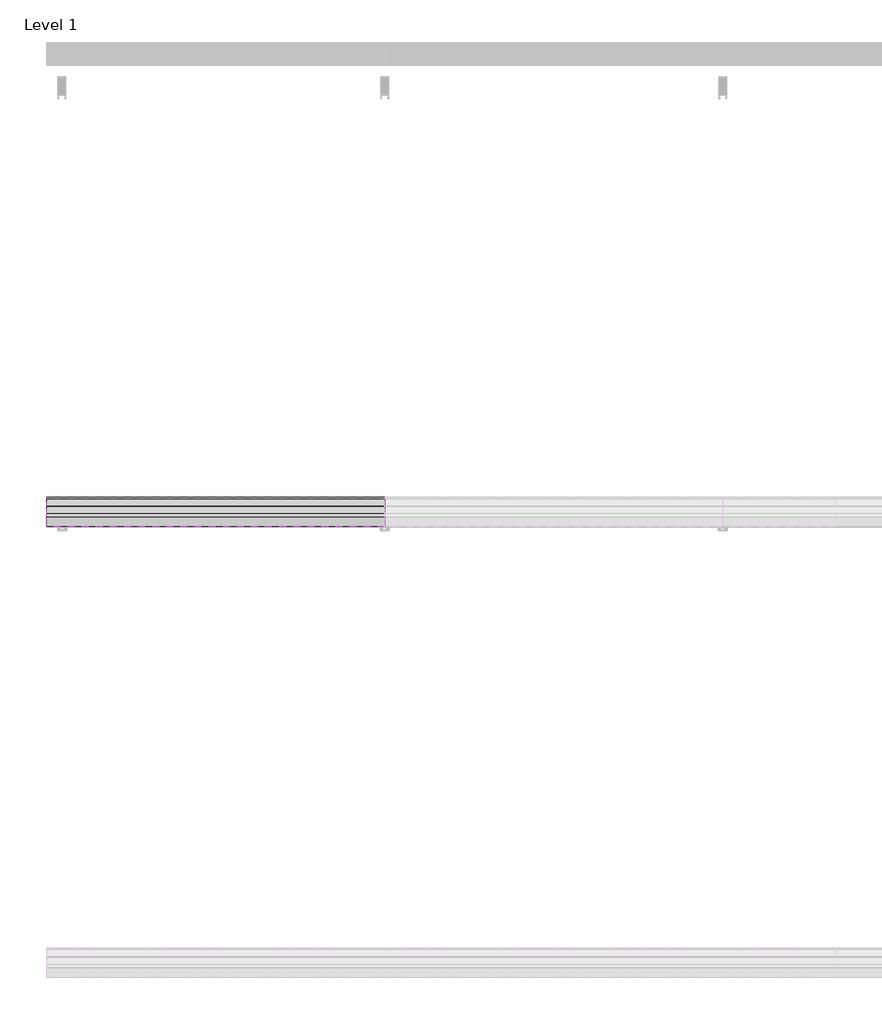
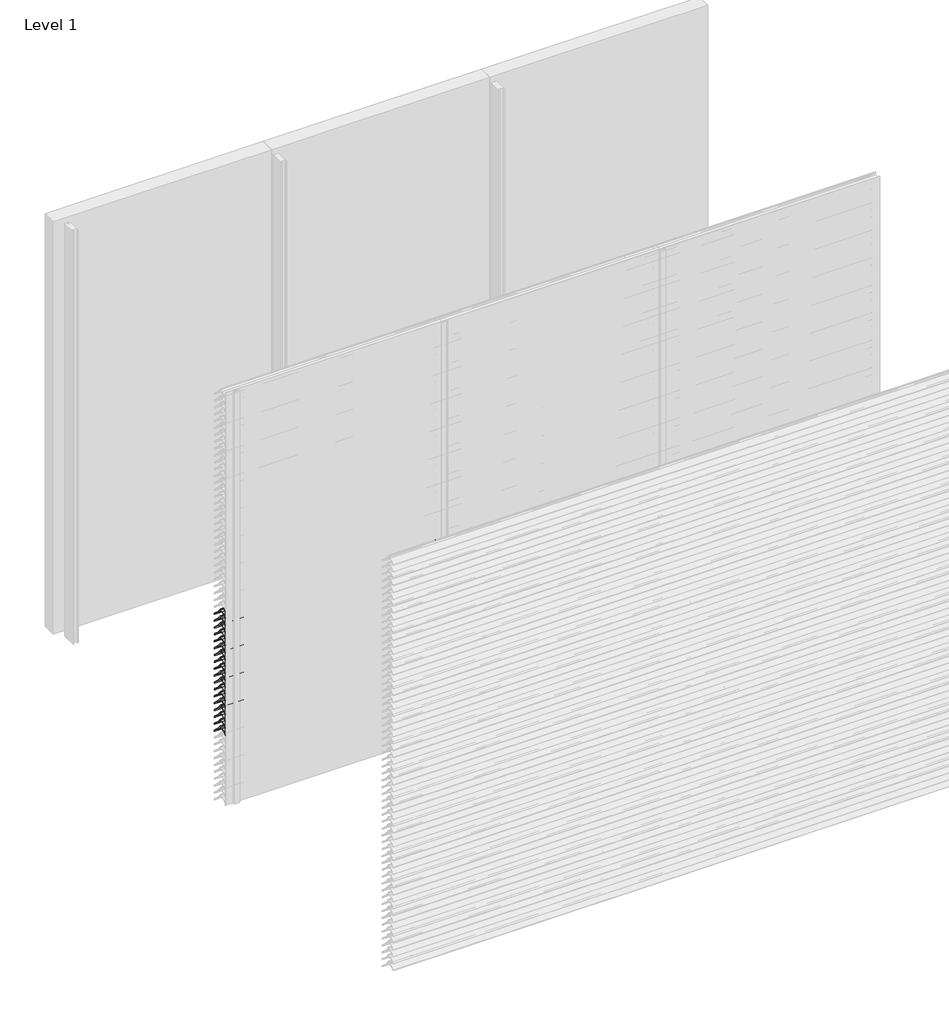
# One storey, part 94 of 173: 18 proxies.
"""IFC4 building model written with IfcOpenShell, lengths in millimetres."""

from ifc_helpers import new_model, si_unit, point, frame, frame_2d, origin, place, context, project, spatial, polyline, circle_curve, trimmed, segment, composite_curve, outline, extrude, element, save

model = new_model("IFC4")

# Units and contexts
model_context = context("Model", 3, world=origin())
ifc_project = project(units=[si_unit("LENGTHUNIT", "METRE", prefix="MILLI")], contexts=[model_context])

# Site, building, storey
site = spatial("IfcSite", under=ifc_project)
building = spatial("IfcBuilding", under=site)
storey = spatial("IfcBuildingStorey", under=building, Name="Level 1", Elevation=0.0)

# Proxies
placement = place(None, origin())
element("IfcBuildingElementProxy", 1, Name="Wall Sweeps", at=placement, inside=storey, context=model_context, shape_type="SweptSolid", body=[
    extrude(outline(composite_curve([segment(polyline([(-23998.0, 1359.1474905), (-23998.0, 1361.6227417)]), True, "CONTINUOUS"), segment(trimmed(circle_curve(frame_2d((-23951.2682172, 1316.2200208)), 65.1557103), [point((-23998.0, 1361.6227417))], [point((-23954.4014323, 1381.3003524))], False, "CARTESIAN"), True, "CONTINUOUS"), segment(polyline([(-23954.4014323, 1381.3003524), (-23934.8315836, 1381.3003524)]), True, "CONTINUOUS"), segment(trimmed(circle_curve(frame_2d((-23732.7329489, 1528.5533172)), 250.0545817), [point((-23934.8315836, 1381.3003524))], [point((-23941.4452143, 1390.8344583))], False, "CARTESIAN"), True, "CONTINUOUS"), segment(trimmed(circle_curve(frame_2d((-23953.2981792, 1385.1737835)), 13.1352966), [point((-23941.4452143, 1390.8344583))], [point((-23953.8171475, 1398.298824))], True, "CARTESIAN"), True, "CONTINUOUS"), segment(polyline([(-23953.8171475, 1398.298824), (-23953.8171475, 1400.0)]), True, "CONTINUOUS"), segment(trimmed(circle_curve(frame_2d((-23953.2981792, 1385.1737835)), 14.8352966), [point((-23953.8171475, 1400.0))], [point((-23939.9637661, 1391.6760487))], False, "CARTESIAN"), True, "CONTINUOUS"), segment(trimmed(circle_curve(frame_2d((-23732.7329489, 1528.5533172)), 248.3545817), [point((-23939.9637661, 1391.6760487))], [point((-23873.8787895, 1324.2059416))], True, "CARTESIAN"), True, "CONTINUOUS"), segment(trimmed(circle_curve(frame_2d((-23883.8147537, 1311.6649442)), 16.0), [point((-23873.8787895, 1324.2059416))], [point((-23867.8648347, 1310.4))], False, "CARTESIAN"), True, "CONTINUOUS"), segment(polyline([(-23867.8648347, 1310.4), (-23869.6712069, 1310.4)]), True, "CONTINUOUS"), segment(trimmed(circle_curve(frame_2d((-23883.8147537, 1311.6649442)), 14.2), [point((-23869.6712069, 1310.4))], [point((-23874.9518628, 1322.7594998))], True, "CARTESIAN"), True, "CONTINUOUS"), segment(trimmed(circle_curve(frame_2d((-23732.7329489, 1528.5533172)), 250.1545817), [point((-23874.9518628, 1322.7594998))], [point((-23933.7064024, 1379.6003524))], False, "CARTESIAN"), True, "CONTINUOUS"), segment(polyline([(-23933.7064024, 1379.6003524), (-23954.3602632, 1379.6003524)]), True, "CONTINUOUS"), segment(trimmed(circle_curve(frame_2d((-23951.2682172, 1316.2200208)), 63.4557103), [point((-23954.3602632, 1379.6003524))], [point((-23998.0, 1359.1474905))], True, "CARTESIAN"), True, "CONTINUOUS")], self_intersect=False)), frame((0.0, 0.0, 0.0), z_axis=(1.0, 0.0, 0.0), x_axis=(0.0, 1.0, 0.0)), (0.0, 0.0, 1.0), 1500.0),
])
element("IfcBuildingElementProxy", 2, Name="Wall Sweeps", at=placement, inside=storey, context=model_context, shape_type="SweptSolid", body=[
    extrude(outline(composite_curve([segment(polyline([(-23998.0, 1309.1474905), (-23998.0, 1311.6227417)]), True, "CONTINUOUS"), segment(trimmed(circle_curve(frame_2d((-23951.2682172, 1266.2200208)), 65.1557103), [point((-23998.0, 1311.6227417))], [point((-23954.4014323, 1331.3003524))], False, "CARTESIAN"), True, "CONTINUOUS"), segment(polyline([(-23954.4014323, 1331.3003524), (-23934.8315836, 1331.3003524)]), True, "CONTINUOUS"), segment(trimmed(circle_curve(frame_2d((-23732.7329489, 1478.5533172)), 250.0545817), [point((-23934.8315836, 1331.3003524))], [point((-23941.4452143, 1340.8344583))], False, "CARTESIAN"), True, "CONTINUOUS"), segment(trimmed(circle_curve(frame_2d((-23953.2981792, 1335.1737835)), 13.1352966), [point((-23941.4452143, 1340.8344583))], [point((-23953.8171475, 1348.298824))], True, "CARTESIAN"), True, "CONTINUOUS"), segment(polyline([(-23953.8171475, 1348.298824), (-23953.8171475, 1350.0)]), True, "CONTINUOUS"), segment(trimmed(circle_curve(frame_2d((-23953.2981792, 1335.1737835)), 14.8352966), [point((-23953.8171475, 1350.0))], [point((-23939.9637661, 1341.6760487))], False, "CARTESIAN"), True, "CONTINUOUS"), segment(trimmed(circle_curve(frame_2d((-23732.7329489, 1478.5533172)), 248.3545817), [point((-23939.9637661, 1341.6760487))], [point((-23873.8787895, 1274.2059416))], True, "CARTESIAN"), True, "CONTINUOUS"), segment(trimmed(circle_curve(frame_2d((-23883.8147537, 1261.6649442)), 16.0), [point((-23873.8787895, 1274.2059416))], [point((-23867.8648347, 1260.4))], False, "CARTESIAN"), True, "CONTINUOUS"), segment(polyline([(-23867.8648347, 1260.4), (-23869.6712069, 1260.4)]), True, "CONTINUOUS"), segment(trimmed(circle_curve(frame_2d((-23883.8147537, 1261.6649442)), 14.2), [point((-23869.6712069, 1260.4))], [point((-23874.9518628, 1272.7594998))], True, "CARTESIAN"), True, "CONTINUOUS"), segment(trimmed(circle_curve(frame_2d((-23732.7329489, 1478.5533172)), 250.1545817), [point((-23874.9518628, 1272.7594998))], [point((-23933.7064024, 1329.6003524))], False, "CARTESIAN"), True, "CONTINUOUS"), segment(polyline([(-23933.7064024, 1329.6003524), (-23954.3602632, 1329.6003524)]), True, "CONTINUOUS"), segment(trimmed(circle_curve(frame_2d((-23951.2682172, 1266.2200208)), 63.4557103), [point((-23954.3602632, 1329.6003524))], [point((-23998.0, 1309.1474905))], True, "CARTESIAN"), True, "CONTINUOUS")], self_intersect=False)), frame((0.0, 0.0, 0.0), z_axis=(1.0, 0.0, 0.0), x_axis=(0.0, 1.0, 0.0)), (0.0, 0.0, 1.0), 1500.0),
])
element("IfcBuildingElementProxy", 3, Name="Wall Sweeps", at=placement, inside=storey, context=model_context, shape_type="SweptSolid", body=[
    extrude(outline(composite_curve([segment(polyline([(-23998.0, 1259.1474905), (-23998.0, 1261.6227417)]), True, "CONTINUOUS"), segment(trimmed(circle_curve(frame_2d((-23951.2682172, 1216.2200208)), 65.1557103), [point((-23998.0, 1261.6227417))], [point((-23954.4014323, 1281.3003524))], False, "CARTESIAN"), True, "CONTINUOUS"), segment(polyline([(-23954.4014323, 1281.3003524), (-23934.8315836, 1281.3003524)]), True, "CONTINUOUS"), segment(trimmed(circle_curve(frame_2d((-23732.7329489, 1428.5533172)), 250.0545817), [point((-23934.8315836, 1281.3003524))], [point((-23941.4452143, 1290.8344583))], False, "CARTESIAN"), True, "CONTINUOUS"), segment(trimmed(circle_curve(frame_2d((-23953.2981792, 1285.1737835)), 13.1352966), [point((-23941.4452143, 1290.8344583))], [point((-23953.8171475, 1298.298824))], True, "CARTESIAN"), True, "CONTINUOUS"), segment(polyline([(-23953.8171475, 1298.298824), (-23953.8171475, 1300.0)]), True, "CONTINUOUS"), segment(trimmed(circle_curve(frame_2d((-23953.2981792, 1285.1737835)), 14.8352966), [point((-23953.8171475, 1300.0))], [point((-23939.9637661, 1291.6760487))], False, "CARTESIAN"), True, "CONTINUOUS"), segment(trimmed(circle_curve(frame_2d((-23732.7329489, 1428.5533172)), 248.3545817), [point((-23939.9637661, 1291.6760487))], [point((-23873.8787895, 1224.2059416))], True, "CARTESIAN"), True, "CONTINUOUS"), segment(trimmed(circle_curve(frame_2d((-23883.8147537, 1211.6649442)), 16.0), [point((-23873.8787895, 1224.2059416))], [point((-23867.8648347, 1210.4))], False, "CARTESIAN"), True, "CONTINUOUS"), segment(polyline([(-23867.8648347, 1210.4), (-23869.6712069, 1210.4)]), True, "CONTINUOUS"), segment(trimmed(circle_curve(frame_2d((-23883.8147537, 1211.6649442)), 14.2), [point((-23869.6712069, 1210.4))], [point((-23874.9518628, 1222.7594998))], True, "CARTESIAN"), True, "CONTINUOUS"), segment(trimmed(circle_curve(frame_2d((-23732.7329489, 1428.5533172)), 250.1545817), [point((-23874.9518628, 1222.7594998))], [point((-23933.7064024, 1279.6003524))], False, "CARTESIAN"), True, "CONTINUOUS"), segment(polyline([(-23933.7064024, 1279.6003524), (-23954.3602632, 1279.6003524)]), True, "CONTINUOUS"), segment(trimmed(circle_curve(frame_2d((-23951.2682172, 1216.2200208)), 63.4557103), [point((-23954.3602632, 1279.6003524))], [point((-23998.0, 1259.1474905))], True, "CARTESIAN"), True, "CONTINUOUS")], self_intersect=False)), frame((0.0, 0.0, 0.0), z_axis=(1.0, 0.0, 0.0), x_axis=(0.0, 1.0, 0.0)), (0.0, 0.0, 1.0), 1500.0),
])
element("IfcBuildingElementProxy", 4, Name="Wall Sweeps", at=placement, inside=storey, context=model_context, shape_type="SweptSolid", body=[
    extrude(outline(composite_curve([segment(polyline([(-23998.0, 1209.1474905), (-23998.0, 1211.6227417)]), True, "CONTINUOUS"), segment(trimmed(circle_curve(frame_2d((-23951.2682172, 1166.2200208)), 65.1557103), [point((-23998.0, 1211.6227417))], [point((-23954.4014323, 1231.3003524))], False, "CARTESIAN"), True, "CONTINUOUS"), segment(polyline([(-23954.4014323, 1231.3003524), (-23934.8315836, 1231.3003524)]), True, "CONTINUOUS"), segment(trimmed(circle_curve(frame_2d((-23732.7329489, 1378.5533172)), 250.0545817), [point((-23934.8315836, 1231.3003524))], [point((-23941.4452143, 1240.8344583))], False, "CARTESIAN"), True, "CONTINUOUS"), segment(trimmed(circle_curve(frame_2d((-23953.2981792, 1235.1737835)), 13.1352966), [point((-23941.4452143, 1240.8344583))], [point((-23953.8171475, 1248.298824))], True, "CARTESIAN"), True, "CONTINUOUS"), segment(polyline([(-23953.8171475, 1248.298824), (-23953.8171475, 1250.0)]), True, "CONTINUOUS"), segment(trimmed(circle_curve(frame_2d((-23953.2981792, 1235.1737835)), 14.8352966), [point((-23953.8171475, 1250.0))], [point((-23939.9637661, 1241.6760487))], False, "CARTESIAN"), True, "CONTINUOUS"), segment(trimmed(circle_curve(frame_2d((-23732.7329489, 1378.5533172)), 248.3545817), [point((-23939.9637661, 1241.6760487))], [point((-23873.8787895, 1174.2059416))], True, "CARTESIAN"), True, "CONTINUOUS"), segment(trimmed(circle_curve(frame_2d((-23883.8147537, 1161.6649442)), 16.0), [point((-23873.8787895, 1174.2059416))], [point((-23867.8648347, 1160.4))], False, "CARTESIAN"), True, "CONTINUOUS"), segment(polyline([(-23867.8648347, 1160.4), (-23869.6712069, 1160.4)]), True, "CONTINUOUS"), segment(trimmed(circle_curve(frame_2d((-23883.8147537, 1161.6649442)), 14.2), [point((-23869.6712069, 1160.4))], [point((-23874.9518628, 1172.7594998))], True, "CARTESIAN"), True, "CONTINUOUS"), segment(trimmed(circle_curve(frame_2d((-23732.7329489, 1378.5533172)), 250.1545817), [point((-23874.9518628, 1172.7594998))], [point((-23933.7064024, 1229.6003524))], False, "CARTESIAN"), True, "CONTINUOUS"), segment(polyline([(-23933.7064024, 1229.6003524), (-23954.3602632, 1229.6003524)]), True, "CONTINUOUS"), segment(trimmed(circle_curve(frame_2d((-23951.2682172, 1166.2200208)), 63.4557103), [point((-23954.3602632, 1229.6003524))], [point((-23998.0, 1209.1474905))], True, "CARTESIAN"), True, "CONTINUOUS")], self_intersect=False)), frame((0.0, 0.0, 0.0), z_axis=(1.0, 0.0, 0.0), x_axis=(0.0, 1.0, 0.0)), (0.0, 0.0, 1.0), 1500.0),
])
element("IfcBuildingElementProxy", 5, Name="Wall Sweeps", at=placement, inside=storey, context=model_context, shape_type="SweptSolid", body=[
    extrude(outline(composite_curve([segment(polyline([(-23998.0, 1159.1474905), (-23998.0, 1161.6227417)]), True, "CONTINUOUS"), segment(trimmed(circle_curve(frame_2d((-23951.2682172, 1116.2200208)), 65.1557103), [point((-23998.0, 1161.6227417))], [point((-23954.4014323, 1181.3003524))], False, "CARTESIAN"), True, "CONTINUOUS"), segment(polyline([(-23954.4014323, 1181.3003524), (-23934.8315836, 1181.3003524)]), True, "CONTINUOUS"), segment(trimmed(circle_curve(frame_2d((-23732.7329489, 1328.5533172)), 250.0545817), [point((-23934.8315836, 1181.3003524))], [point((-23941.4452143, 1190.8344583))], False, "CARTESIAN"), True, "CONTINUOUS"), segment(trimmed(circle_curve(frame_2d((-23953.2981792, 1185.1737835)), 13.1352966), [point((-23941.4452143, 1190.8344583))], [point((-23953.8171475, 1198.298824))], True, "CARTESIAN"), True, "CONTINUOUS"), segment(polyline([(-23953.8171475, 1198.298824), (-23953.8171475, 1200.0)]), True, "CONTINUOUS"), segment(trimmed(circle_curve(frame_2d((-23953.2981792, 1185.1737835)), 14.8352966), [point((-23953.8171475, 1200.0))], [point((-23939.9637661, 1191.6760487))], False, "CARTESIAN"), True, "CONTINUOUS"), segment(trimmed(circle_curve(frame_2d((-23732.7329489, 1328.5533172)), 248.3545817), [point((-23939.9637661, 1191.6760487))], [point((-23873.8787895, 1124.2059416))], True, "CARTESIAN"), True, "CONTINUOUS"), segment(trimmed(circle_curve(frame_2d((-23883.8147537, 1111.6649442)), 16.0), [point((-23873.8787895, 1124.2059416))], [point((-23867.8648347, 1110.4))], False, "CARTESIAN"), True, "CONTINUOUS"), segment(polyline([(-23867.8648347, 1110.4), (-23869.6712069, 1110.4)]), True, "CONTINUOUS"), segment(trimmed(circle_curve(frame_2d((-23883.8147537, 1111.6649442)), 14.2), [point((-23869.6712069, 1110.4))], [point((-23874.9518628, 1122.7594998))], True, "CARTESIAN"), True, "CONTINUOUS"), segment(trimmed(circle_curve(frame_2d((-23732.7329489, 1328.5533172)), 250.1545817), [point((-23874.9518628, 1122.7594998))], [point((-23933.7064024, 1179.6003524))], False, "CARTESIAN"), True, "CONTINUOUS"), segment(polyline([(-23933.7064024, 1179.6003524), (-23954.3602632, 1179.6003524)]), True, "CONTINUOUS"), segment(trimmed(circle_curve(frame_2d((-23951.2682172, 1116.2200208)), 63.4557103), [point((-23954.3602632, 1179.6003524))], [point((-23998.0, 1159.1474905))], True, "CARTESIAN"), True, "CONTINUOUS")], self_intersect=False)), frame((0.0, 0.0, 0.0), z_axis=(1.0, 0.0, 0.0), x_axis=(0.0, 1.0, 0.0)), (0.0, 0.0, 1.0), 1500.0),
])
element("IfcBuildingElementProxy", 6, Name="Wall Sweeps", at=placement, inside=storey, context=model_context, shape_type="SweptSolid", body=[
    extrude(outline(composite_curve([segment(polyline([(-23998.0, 1109.1474905), (-23998.0, 1111.6227417)]), True, "CONTINUOUS"), segment(trimmed(circle_curve(frame_2d((-23951.2682172, 1066.2200208)), 65.1557103), [point((-23998.0, 1111.6227417))], [point((-23954.4014323, 1131.3003524))], False, "CARTESIAN"), True, "CONTINUOUS"), segment(polyline([(-23954.4014323, 1131.3003524), (-23934.8315836, 1131.3003524)]), True, "CONTINUOUS"), segment(trimmed(circle_curve(frame_2d((-23732.7329489, 1278.5533172)), 250.0545817), [point((-23934.8315836, 1131.3003524))], [point((-23941.4452143, 1140.8344583))], False, "CARTESIAN"), True, "CONTINUOUS"), segment(trimmed(circle_curve(frame_2d((-23953.2981792, 1135.1737835)), 13.1352966), [point((-23941.4452143, 1140.8344583))], [point((-23953.8171475, 1148.298824))], True, "CARTESIAN"), True, "CONTINUOUS"), segment(polyline([(-23953.8171475, 1148.298824), (-23953.8171475, 1150.0)]), True, "CONTINUOUS"), segment(trimmed(circle_curve(frame_2d((-23953.2981792, 1135.1737835)), 14.8352966), [point((-23953.8171475, 1150.0))], [point((-23939.9637661, 1141.6760487))], False, "CARTESIAN"), True, "CONTINUOUS"), segment(trimmed(circle_curve(frame_2d((-23732.7329489, 1278.5533172)), 248.3545817), [point((-23939.9637661, 1141.6760487))], [point((-23873.8787895, 1074.2059416))], True, "CARTESIAN"), True, "CONTINUOUS"), segment(trimmed(circle_curve(frame_2d((-23883.8147537, 1061.6649442)), 16.0), [point((-23873.8787895, 1074.2059416))], [point((-23867.8648347, 1060.4))], False, "CARTESIAN"), True, "CONTINUOUS"), segment(polyline([(-23867.8648347, 1060.4), (-23869.6712069, 1060.4)]), True, "CONTINUOUS"), segment(trimmed(circle_curve(frame_2d((-23883.8147537, 1061.6649442)), 14.2), [point((-23869.6712069, 1060.4))], [point((-23874.9518628, 1072.7594998))], True, "CARTESIAN"), True, "CONTINUOUS"), segment(trimmed(circle_curve(frame_2d((-23732.7329489, 1278.5533172)), 250.1545817), [point((-23874.9518628, 1072.7594998))], [point((-23933.7064024, 1129.6003524))], False, "CARTESIAN"), True, "CONTINUOUS"), segment(polyline([(-23933.7064024, 1129.6003524), (-23954.3602632, 1129.6003524)]), True, "CONTINUOUS"), segment(trimmed(circle_curve(frame_2d((-23951.2682172, 1066.2200208)), 63.4557103), [point((-23954.3602632, 1129.6003524))], [point((-23998.0, 1109.1474905))], True, "CARTESIAN"), True, "CONTINUOUS")], self_intersect=False)), frame((0.0, 0.0, 0.0), z_axis=(1.0, 0.0, 0.0), x_axis=(0.0, 1.0, 0.0)), (0.0, 0.0, 1.0), 1500.0),
])
element("IfcBuildingElementProxy", 7, Name="Wall Sweeps", at=placement, inside=storey, context=model_context, shape_type="SweptSolid", body=[
    extrude(outline(composite_curve([segment(polyline([(-23998.0, 1059.1474905), (-23998.0, 1061.6227417)]), True, "CONTINUOUS"), segment(trimmed(circle_curve(frame_2d((-23951.2682172, 1016.2200208)), 65.1557103), [point((-23998.0, 1061.6227417))], [point((-23954.4014323, 1081.3003524))], False, "CARTESIAN"), True, "CONTINUOUS"), segment(polyline([(-23954.4014323, 1081.3003524), (-23934.8315836, 1081.3003524)]), True, "CONTINUOUS"), segment(trimmed(circle_curve(frame_2d((-23732.7329489, 1228.5533172)), 250.0545817), [point((-23934.8315836, 1081.3003524))], [point((-23941.4452143, 1090.8344583))], False, "CARTESIAN"), True, "CONTINUOUS"), segment(trimmed(circle_curve(frame_2d((-23953.2981792, 1085.1737835)), 13.1352966), [point((-23941.4452143, 1090.8344583))], [point((-23953.8171475, 1098.298824))], True, "CARTESIAN"), True, "CONTINUOUS"), segment(polyline([(-23953.8171475, 1098.298824), (-23953.8171475, 1100.0)]), True, "CONTINUOUS"), segment(trimmed(circle_curve(frame_2d((-23953.2981792, 1085.1737835)), 14.8352966), [point((-23953.8171475, 1100.0))], [point((-23939.9637661, 1091.6760487))], False, "CARTESIAN"), True, "CONTINUOUS"), segment(trimmed(circle_curve(frame_2d((-23732.7329489, 1228.5533172)), 248.3545817), [point((-23939.9637661, 1091.6760487))], [point((-23873.8787895, 1024.2059416))], True, "CARTESIAN"), True, "CONTINUOUS"), segment(trimmed(circle_curve(frame_2d((-23883.8147537, 1011.6649442)), 16.0), [point((-23873.8787895, 1024.2059416))], [point((-23867.8648347, 1010.4))], False, "CARTESIAN"), True, "CONTINUOUS"), segment(polyline([(-23867.8648347, 1010.4), (-23869.6712069, 1010.4)]), True, "CONTINUOUS"), segment(trimmed(circle_curve(frame_2d((-23883.8147537, 1011.6649442)), 14.2), [point((-23869.6712069, 1010.4))], [point((-23874.9518628, 1022.7594998))], True, "CARTESIAN"), True, "CONTINUOUS"), segment(trimmed(circle_curve(frame_2d((-23732.7329489, 1228.5533172)), 250.1545817), [point((-23874.9518628, 1022.7594998))], [point((-23933.7064024, 1079.6003524))], False, "CARTESIAN"), True, "CONTINUOUS"), segment(polyline([(-23933.7064024, 1079.6003524), (-23954.3602632, 1079.6003524)]), True, "CONTINUOUS"), segment(trimmed(circle_curve(frame_2d((-23951.2682172, 1016.2200208)), 63.4557103), [point((-23954.3602632, 1079.6003524))], [point((-23998.0, 1059.1474905))], True, "CARTESIAN"), True, "CONTINUOUS")], self_intersect=False)), frame((0.0, 0.0, 0.0), z_axis=(1.0, 0.0, 0.0), x_axis=(0.0, 1.0, 0.0)), (0.0, 0.0, 1.0), 1500.0),
])
element("IfcBuildingElementProxy", 8, Name="Wall Sweeps", at=placement, inside=storey, context=model_context, shape_type="SweptSolid", body=[
    extrude(outline(composite_curve([segment(polyline([(-23998.0, 1009.1474905), (-23998.0, 1011.6227417)]), True, "CONTINUOUS"), segment(trimmed(circle_curve(frame_2d((-23951.2682172, 966.2200208)), 65.1557103), [point((-23998.0, 1011.6227417))], [point((-23954.4014323, 1031.3003524))], False, "CARTESIAN"), True, "CONTINUOUS"), segment(polyline([(-23954.4014323, 1031.3003524), (-23934.8315836, 1031.3003524)]), True, "CONTINUOUS"), segment(trimmed(circle_curve(frame_2d((-23732.7329489, 1178.5533172)), 250.0545817), [point((-23934.8315836, 1031.3003524))], [point((-23941.4452143, 1040.8344583))], False, "CARTESIAN"), True, "CONTINUOUS"), segment(trimmed(circle_curve(frame_2d((-23953.2981792, 1035.1737835)), 13.1352966), [point((-23941.4452143, 1040.8344583))], [point((-23953.8171475, 1048.298824))], True, "CARTESIAN"), True, "CONTINUOUS"), segment(polyline([(-23953.8171475, 1048.298824), (-23953.8171475, 1050.0)]), True, "CONTINUOUS"), segment(trimmed(circle_curve(frame_2d((-23953.2981792, 1035.1737835)), 14.8352966), [point((-23953.8171475, 1050.0))], [point((-23939.9637661, 1041.6760487))], False, "CARTESIAN"), True, "CONTINUOUS"), segment(trimmed(circle_curve(frame_2d((-23732.7329489, 1178.5533172)), 248.3545817), [point((-23939.9637661, 1041.6760487))], [point((-23873.8787895, 974.2059416))], True, "CARTESIAN"), True, "CONTINUOUS"), segment(trimmed(circle_curve(frame_2d((-23883.8147537, 961.6649442)), 16.0), [point((-23873.8787895, 974.2059416))], [point((-23867.8648347, 960.4))], False, "CARTESIAN"), True, "CONTINUOUS"), segment(polyline([(-23867.8648347, 960.4), (-23869.6712069, 960.4)]), True, "CONTINUOUS"), segment(trimmed(circle_curve(frame_2d((-23883.8147537, 961.6649442)), 14.2), [point((-23869.6712069, 960.4))], [point((-23874.9518628, 972.7594998))], True, "CARTESIAN"), True, "CONTINUOUS"), segment(trimmed(circle_curve(frame_2d((-23732.7329489, 1178.5533172)), 250.1545817), [point((-23874.9518628, 972.7594998))], [point((-23933.7064024, 1029.6003524))], False, "CARTESIAN"), True, "CONTINUOUS"), segment(polyline([(-23933.7064024, 1029.6003524), (-23954.3602632, 1029.6003524)]), True, "CONTINUOUS"), segment(trimmed(circle_curve(frame_2d((-23951.2682172, 966.2200208)), 63.4557103), [point((-23954.3602632, 1029.6003524))], [point((-23998.0, 1009.1474905))], True, "CARTESIAN"), True, "CONTINUOUS")], self_intersect=False)), frame((0.0, 0.0, 0.0), z_axis=(1.0, 0.0, 0.0), x_axis=(0.0, 1.0, 0.0)), (0.0, 0.0, 1.0), 1500.0),
])
element("IfcBuildingElementProxy", 9, Name="Wall Sweeps", at=placement, inside=storey, context=model_context, shape_type="SweptSolid", body=[
    extrude(outline(composite_curve([segment(polyline([(-23998.0, 959.1474905), (-23998.0, 961.6227417)]), True, "CONTINUOUS"), segment(trimmed(circle_curve(frame_2d((-23951.2682172, 916.2200208)), 65.1557103), [point((-23998.0, 961.6227417))], [point((-23954.4014323, 981.3003524))], False, "CARTESIAN"), True, "CONTINUOUS"), segment(polyline([(-23954.4014323, 981.3003524), (-23934.8315836, 981.3003524)]), True, "CONTINUOUS"), segment(trimmed(circle_curve(frame_2d((-23732.7329489, 1128.5533172)), 250.0545817), [point((-23934.8315836, 981.3003524))], [point((-23941.4452143, 990.8344583))], False, "CARTESIAN"), True, "CONTINUOUS"), segment(trimmed(circle_curve(frame_2d((-23953.2981792, 985.1737835)), 13.1352966), [point((-23941.4452143, 990.8344583))], [point((-23953.8171475, 998.298824))], True, "CARTESIAN"), True, "CONTINUOUS"), segment(polyline([(-23953.8171475, 998.298824), (-23953.8171475, 1000.0)]), True, "CONTINUOUS"), segment(trimmed(circle_curve(frame_2d((-23953.2981792, 985.1737835)), 14.8352966), [point((-23953.8171475, 1000.0))], [point((-23939.9637661, 991.6760487))], False, "CARTESIAN"), True, "CONTINUOUS"), segment(trimmed(circle_curve(frame_2d((-23732.7329489, 1128.5533172)), 248.3545817), [point((-23939.9637661, 991.6760487))], [point((-23873.8787895, 924.2059416))], True, "CARTESIAN"), True, "CONTINUOUS"), segment(trimmed(circle_curve(frame_2d((-23883.8147537, 911.6649442)), 16.0), [point((-23873.8787895, 924.2059416))], [point((-23867.8648347, 910.4))], False, "CARTESIAN"), True, "CONTINUOUS"), segment(polyline([(-23867.8648347, 910.4), (-23869.6712069, 910.4)]), True, "CONTINUOUS"), segment(trimmed(circle_curve(frame_2d((-23883.8147537, 911.6649442)), 14.2), [point((-23869.6712069, 910.4))], [point((-23874.9518628, 922.7594998))], True, "CARTESIAN"), True, "CONTINUOUS"), segment(trimmed(circle_curve(frame_2d((-23732.7329489, 1128.5533172)), 250.1545817), [point((-23874.9518628, 922.7594998))], [point((-23933.7064024, 979.6003524))], False, "CARTESIAN"), True, "CONTINUOUS"), segment(polyline([(-23933.7064024, 979.6003524), (-23954.3602632, 979.6003524)]), True, "CONTINUOUS"), segment(trimmed(circle_curve(frame_2d((-23951.2682172, 916.2200208)), 63.4557103), [point((-23954.3602632, 979.6003524))], [point((-23998.0, 959.1474905))], True, "CARTESIAN"), True, "CONTINUOUS")], self_intersect=False)), frame((0.0, 0.0, 0.0), z_axis=(1.0, 0.0, 0.0), x_axis=(0.0, 1.0, 0.0)), (0.0, 0.0, 1.0), 1500.0),
])
element("IfcBuildingElementProxy", 10, Name="Wall Sweeps", at=placement, inside=storey, context=model_context, shape_type="SweptSolid", body=[
    extrude(outline(composite_curve([segment(polyline([(-23998.0, 909.1474905), (-23998.0, 911.6227417)]), True, "CONTINUOUS"), segment(trimmed(circle_curve(frame_2d((-23951.2682172, 866.2200208)), 65.1557103), [point((-23998.0, 911.6227417))], [point((-23954.4014323, 931.3003524))], False, "CARTESIAN"), True, "CONTINUOUS"), segment(polyline([(-23954.4014323, 931.3003524), (-23934.8315836, 931.3003524)]), True, "CONTINUOUS"), segment(trimmed(circle_curve(frame_2d((-23732.7329489, 1078.5533172)), 250.0545817), [point((-23934.8315836, 931.3003524))], [point((-23941.4452143, 940.8344583))], False, "CARTESIAN"), True, "CONTINUOUS"), segment(trimmed(circle_curve(frame_2d((-23953.2981792, 935.1737835)), 13.1352966), [point((-23941.4452143, 940.8344583))], [point((-23953.8171475, 948.298824))], True, "CARTESIAN"), True, "CONTINUOUS"), segment(polyline([(-23953.8171475, 948.298824), (-23953.8171475, 950.0)]), True, "CONTINUOUS"), segment(trimmed(circle_curve(frame_2d((-23953.2981792, 935.1737835)), 14.8352966), [point((-23953.8171475, 950.0))], [point((-23939.9637661, 941.6760487))], False, "CARTESIAN"), True, "CONTINUOUS"), segment(trimmed(circle_curve(frame_2d((-23732.7329489, 1078.5533172)), 248.3545817), [point((-23939.9637661, 941.6760487))], [point((-23873.8787895, 874.2059416))], True, "CARTESIAN"), True, "CONTINUOUS"), segment(trimmed(circle_curve(frame_2d((-23883.8147537, 861.6649442)), 16.0), [point((-23873.8787895, 874.2059416))], [point((-23867.8648347, 860.4))], False, "CARTESIAN"), True, "CONTINUOUS"), segment(polyline([(-23867.8648347, 860.4), (-23869.6712069, 860.4)]), True, "CONTINUOUS"), segment(trimmed(circle_curve(frame_2d((-23883.8147537, 861.6649442)), 14.2), [point((-23869.6712069, 860.4))], [point((-23874.9518628, 872.7594998))], True, "CARTESIAN"), True, "CONTINUOUS"), segment(trimmed(circle_curve(frame_2d((-23732.7329489, 1078.5533172)), 250.1545817), [point((-23874.9518628, 872.7594998))], [point((-23933.7064024, 929.6003524))], False, "CARTESIAN"), True, "CONTINUOUS"), segment(polyline([(-23933.7064024, 929.6003524), (-23954.3602632, 929.6003524)]), True, "CONTINUOUS"), segment(trimmed(circle_curve(frame_2d((-23951.2682172, 866.2200208)), 63.4557103), [point((-23954.3602632, 929.6003524))], [point((-23998.0, 909.1474905))], True, "CARTESIAN"), True, "CONTINUOUS")], self_intersect=False)), frame((0.0, 0.0, 0.0), z_axis=(1.0, 0.0, 0.0), x_axis=(0.0, 1.0, 0.0)), (0.0, 0.0, 1.0), 1500.0),
])
element("IfcBuildingElementProxy", 11, Name="Wall Sweeps", at=placement, inside=storey, context=model_context, shape_type="SweptSolid", body=[
    extrude(outline(composite_curve([segment(polyline([(-23998.0, 859.1474905), (-23998.0, 861.6227417)]), True, "CONTINUOUS"), segment(trimmed(circle_curve(frame_2d((-23951.2682172, 816.2200208)), 65.1557103), [point((-23998.0, 861.6227417))], [point((-23954.4014323, 881.3003524))], False, "CARTESIAN"), True, "CONTINUOUS"), segment(polyline([(-23954.4014323, 881.3003524), (-23934.8315836, 881.3003524)]), True, "CONTINUOUS"), segment(trimmed(circle_curve(frame_2d((-23732.7329489, 1028.5533172)), 250.0545817), [point((-23934.8315836, 881.3003524))], [point((-23941.4452143, 890.8344583))], False, "CARTESIAN"), True, "CONTINUOUS"), segment(trimmed(circle_curve(frame_2d((-23953.2981792, 885.1737835)), 13.1352966), [point((-23941.4452143, 890.8344583))], [point((-23953.8171475, 898.298824))], True, "CARTESIAN"), True, "CONTINUOUS"), segment(polyline([(-23953.8171475, 898.298824), (-23953.8171475, 900.0)]), True, "CONTINUOUS"), segment(trimmed(circle_curve(frame_2d((-23953.2981792, 885.1737835)), 14.8352966), [point((-23953.8171475, 900.0))], [point((-23939.9637661, 891.6760487))], False, "CARTESIAN"), True, "CONTINUOUS"), segment(trimmed(circle_curve(frame_2d((-23732.7329489, 1028.5533172)), 248.3545817), [point((-23939.9637661, 891.6760487))], [point((-23873.8787895, 824.2059416))], True, "CARTESIAN"), True, "CONTINUOUS"), segment(trimmed(circle_curve(frame_2d((-23883.8147537, 811.6649442)), 16.0), [point((-23873.8787895, 824.2059416))], [point((-23867.8648347, 810.4))], False, "CARTESIAN"), True, "CONTINUOUS"), segment(polyline([(-23867.8648347, 810.4), (-23869.6712069, 810.4)]), True, "CONTINUOUS"), segment(trimmed(circle_curve(frame_2d((-23883.8147537, 811.6649442)), 14.2), [point((-23869.6712069, 810.4))], [point((-23874.9518628, 822.7594998))], True, "CARTESIAN"), True, "CONTINUOUS"), segment(trimmed(circle_curve(frame_2d((-23732.7329489, 1028.5533172)), 250.1545817), [point((-23874.9518628, 822.7594998))], [point((-23933.7064024, 879.6003524))], False, "CARTESIAN"), True, "CONTINUOUS"), segment(polyline([(-23933.7064024, 879.6003524), (-23954.3602632, 879.6003524)]), True, "CONTINUOUS"), segment(trimmed(circle_curve(frame_2d((-23951.2682172, 816.2200208)), 63.4557103), [point((-23954.3602632, 879.6003524))], [point((-23998.0, 859.1474905))], True, "CARTESIAN"), True, "CONTINUOUS")], self_intersect=False)), frame((0.0, 0.0, 0.0), z_axis=(1.0, 0.0, 0.0), x_axis=(0.0, 1.0, 0.0)), (0.0, 0.0, 1.0), 1500.0),
])
element("IfcBuildingElementProxy", 12, Name="Wall Sweeps", at=placement, inside=storey, context=model_context, shape_type="SweptSolid", body=[
    extrude(outline(composite_curve([segment(polyline([(-23998.0, 809.1474905), (-23998.0, 811.6227417)]), True, "CONTINUOUS"), segment(trimmed(circle_curve(frame_2d((-23951.2682172, 766.2200208)), 65.1557103), [point((-23998.0, 811.6227417))], [point((-23954.4014323, 831.3003524))], False, "CARTESIAN"), True, "CONTINUOUS"), segment(polyline([(-23954.4014323, 831.3003524), (-23934.8315836, 831.3003524)]), True, "CONTINUOUS"), segment(trimmed(circle_curve(frame_2d((-23732.7329489, 978.5533172)), 250.0545817), [point((-23934.8315836, 831.3003524))], [point((-23941.4452143, 840.8344583))], False, "CARTESIAN"), True, "CONTINUOUS"), segment(trimmed(circle_curve(frame_2d((-23953.2981792, 835.1737835)), 13.1352966), [point((-23941.4452143, 840.8344583))], [point((-23953.8171475, 848.298824))], True, "CARTESIAN"), True, "CONTINUOUS"), segment(polyline([(-23953.8171475, 848.298824), (-23953.8171475, 850.0)]), True, "CONTINUOUS"), segment(trimmed(circle_curve(frame_2d((-23953.2981792, 835.1737835)), 14.8352966), [point((-23953.8171475, 850.0))], [point((-23939.9637661, 841.6760487))], False, "CARTESIAN"), True, "CONTINUOUS"), segment(trimmed(circle_curve(frame_2d((-23732.7329489, 978.5533172)), 248.3545817), [point((-23939.9637661, 841.6760487))], [point((-23873.8787895, 774.2059416))], True, "CARTESIAN"), True, "CONTINUOUS"), segment(trimmed(circle_curve(frame_2d((-23883.8147537, 761.6649442)), 16.0), [point((-23873.8787895, 774.2059416))], [point((-23867.8648347, 760.4))], False, "CARTESIAN"), True, "CONTINUOUS"), segment(polyline([(-23867.8648347, 760.4), (-23869.6712069, 760.4)]), True, "CONTINUOUS"), segment(trimmed(circle_curve(frame_2d((-23883.8147537, 761.6649442)), 14.2), [point((-23869.6712069, 760.4))], [point((-23874.9518628, 772.7594998))], True, "CARTESIAN"), True, "CONTINUOUS"), segment(trimmed(circle_curve(frame_2d((-23732.7329489, 978.5533172)), 250.1545817), [point((-23874.9518628, 772.7594998))], [point((-23933.7064024, 829.6003524))], False, "CARTESIAN"), True, "CONTINUOUS"), segment(polyline([(-23933.7064024, 829.6003524), (-23954.3602632, 829.6003524)]), True, "CONTINUOUS"), segment(trimmed(circle_curve(frame_2d((-23951.2682172, 766.2200208)), 63.4557103), [point((-23954.3602632, 829.6003524))], [point((-23998.0, 809.1474905))], True, "CARTESIAN"), True, "CONTINUOUS")], self_intersect=False)), frame((0.0, 0.0, 0.0), z_axis=(1.0, 0.0, 0.0), x_axis=(0.0, 1.0, 0.0)), (0.0, 0.0, 1.0), 1500.0),
])
element("IfcBuildingElementProxy", 13, Name="Wall Sweeps", at=placement, inside=storey, context=model_context, shape_type="SweptSolid", body=[
    extrude(outline(composite_curve([segment(polyline([(-23998.0, 759.1474905), (-23998.0, 761.6227417)]), True, "CONTINUOUS"), segment(trimmed(circle_curve(frame_2d((-23951.2682172, 716.2200208)), 65.1557103), [point((-23998.0, 761.6227417))], [point((-23954.4014323, 781.3003524))], False, "CARTESIAN"), True, "CONTINUOUS"), segment(polyline([(-23954.4014323, 781.3003524), (-23934.8315836, 781.3003524)]), True, "CONTINUOUS"), segment(trimmed(circle_curve(frame_2d((-23732.7329489, 928.5533172)), 250.0545817), [point((-23934.8315836, 781.3003524))], [point((-23941.4452143, 790.8344583))], False, "CARTESIAN"), True, "CONTINUOUS"), segment(trimmed(circle_curve(frame_2d((-23953.2981792, 785.1737835)), 13.1352966), [point((-23941.4452143, 790.8344583))], [point((-23953.8171475, 798.298824))], True, "CARTESIAN"), True, "CONTINUOUS"), segment(polyline([(-23953.8171475, 798.298824), (-23953.8171475, 800.0)]), True, "CONTINUOUS"), segment(trimmed(circle_curve(frame_2d((-23953.2981792, 785.1737835)), 14.8352966), [point((-23953.8171475, 800.0))], [point((-23939.9637661, 791.6760487))], False, "CARTESIAN"), True, "CONTINUOUS"), segment(trimmed(circle_curve(frame_2d((-23732.7329489, 928.5533172)), 248.3545817), [point((-23939.9637661, 791.6760487))], [point((-23873.8787895, 724.2059416))], True, "CARTESIAN"), True, "CONTINUOUS"), segment(trimmed(circle_curve(frame_2d((-23883.8147537, 711.6649442)), 16.0), [point((-23873.8787895, 724.2059416))], [point((-23867.8648347, 710.4))], False, "CARTESIAN"), True, "CONTINUOUS"), segment(polyline([(-23867.8648347, 710.4), (-23869.6712069, 710.4)]), True, "CONTINUOUS"), segment(trimmed(circle_curve(frame_2d((-23883.8147537, 711.6649442)), 14.2), [point((-23869.6712069, 710.4))], [point((-23874.9518628, 722.7594998))], True, "CARTESIAN"), True, "CONTINUOUS"), segment(trimmed(circle_curve(frame_2d((-23732.7329489, 928.5533172)), 250.1545817), [point((-23874.9518628, 722.7594998))], [point((-23933.7064024, 779.6003524))], False, "CARTESIAN"), True, "CONTINUOUS"), segment(polyline([(-23933.7064024, 779.6003524), (-23954.3602632, 779.6003524)]), True, "CONTINUOUS"), segment(trimmed(circle_curve(frame_2d((-23951.2682172, 716.2200208)), 63.4557103), [point((-23954.3602632, 779.6003524))], [point((-23998.0, 759.1474905))], True, "CARTESIAN"), True, "CONTINUOUS")], self_intersect=False)), frame((0.0, 0.0, 0.0), z_axis=(1.0, 0.0, 0.0), x_axis=(0.0, 1.0, 0.0)), (0.0, 0.0, 1.0), 1500.0),
])
element("IfcBuildingElementProxy", 14, Name="Wall Sweeps", at=placement, inside=storey, context=model_context, shape_type="SweptSolid", body=[
    extrude(outline(composite_curve([segment(polyline([(-23998.0, 709.1474905), (-23998.0, 711.6227417)]), True, "CONTINUOUS"), segment(trimmed(circle_curve(frame_2d((-23951.2682172, 666.2200208)), 65.1557103), [point((-23998.0, 711.6227417))], [point((-23954.4014323, 731.3003524))], False, "CARTESIAN"), True, "CONTINUOUS"), segment(polyline([(-23954.4014323, 731.3003524), (-23934.8315836, 731.3003524)]), True, "CONTINUOUS"), segment(trimmed(circle_curve(frame_2d((-23732.7329489, 878.5533172)), 250.0545817), [point((-23934.8315836, 731.3003524))], [point((-23941.4452143, 740.8344583))], False, "CARTESIAN"), True, "CONTINUOUS"), segment(trimmed(circle_curve(frame_2d((-23953.2981792, 735.1737835)), 13.1352966), [point((-23941.4452143, 740.8344583))], [point((-23953.8171475, 748.298824))], True, "CARTESIAN"), True, "CONTINUOUS"), segment(polyline([(-23953.8171475, 748.298824), (-23953.8171475, 750.0)]), True, "CONTINUOUS"), segment(trimmed(circle_curve(frame_2d((-23953.2981792, 735.1737835)), 14.8352966), [point((-23953.8171475, 750.0))], [point((-23939.9637661, 741.6760487))], False, "CARTESIAN"), True, "CONTINUOUS"), segment(trimmed(circle_curve(frame_2d((-23732.7329489, 878.5533172)), 248.3545817), [point((-23939.9637661, 741.6760487))], [point((-23873.8787895, 674.2059416))], True, "CARTESIAN"), True, "CONTINUOUS"), segment(trimmed(circle_curve(frame_2d((-23883.8147537, 661.6649442)), 16.0), [point((-23873.8787895, 674.2059416))], [point((-23867.8648347, 660.4))], False, "CARTESIAN"), True, "CONTINUOUS"), segment(polyline([(-23867.8648347, 660.4), (-23869.6712069, 660.4)]), True, "CONTINUOUS"), segment(trimmed(circle_curve(frame_2d((-23883.8147537, 661.6649442)), 14.2), [point((-23869.6712069, 660.4))], [point((-23874.9518628, 672.7594998))], True, "CARTESIAN"), True, "CONTINUOUS"), segment(trimmed(circle_curve(frame_2d((-23732.7329489, 878.5533172)), 250.1545817), [point((-23874.9518628, 672.7594998))], [point((-23933.7064024, 729.6003524))], False, "CARTESIAN"), True, "CONTINUOUS"), segment(polyline([(-23933.7064024, 729.6003524), (-23954.3602632, 729.6003524)]), True, "CONTINUOUS"), segment(trimmed(circle_curve(frame_2d((-23951.2682172, 666.2200208)), 63.4557103), [point((-23954.3602632, 729.6003524))], [point((-23998.0, 709.1474905))], True, "CARTESIAN"), True, "CONTINUOUS")], self_intersect=False)), frame((0.0, 0.0, 0.0), z_axis=(1.0, 0.0, 0.0), x_axis=(0.0, 1.0, 0.0)), (0.0, 0.0, 1.0), 1500.0),
])
element("IfcBuildingElementProxy", 15, Name="Wall Sweeps", at=placement, inside=storey, context=model_context, shape_type="SweptSolid", body=[
    extrude(outline(composite_curve([segment(polyline([(-23998.0, 659.1474905), (-23998.0, 661.6227417)]), True, "CONTINUOUS"), segment(trimmed(circle_curve(frame_2d((-23951.2682172, 616.2200208)), 65.1557103), [point((-23998.0, 661.6227417))], [point((-23954.4014323, 681.3003524))], False, "CARTESIAN"), True, "CONTINUOUS"), segment(polyline([(-23954.4014323, 681.3003524), (-23934.8315836, 681.3003524)]), True, "CONTINUOUS"), segment(trimmed(circle_curve(frame_2d((-23732.7329489, 828.5533172)), 250.0545817), [point((-23934.8315836, 681.3003524))], [point((-23941.4452143, 690.8344583))], False, "CARTESIAN"), True, "CONTINUOUS"), segment(trimmed(circle_curve(frame_2d((-23953.2981792, 685.1737835)), 13.1352966), [point((-23941.4452143, 690.8344583))], [point((-23953.8171475, 698.298824))], True, "CARTESIAN"), True, "CONTINUOUS"), segment(polyline([(-23953.8171475, 698.298824), (-23953.8171475, 700.0)]), True, "CONTINUOUS"), segment(trimmed(circle_curve(frame_2d((-23953.2981792, 685.1737835)), 14.8352966), [point((-23953.8171475, 700.0))], [point((-23939.9637661, 691.6760487))], False, "CARTESIAN"), True, "CONTINUOUS"), segment(trimmed(circle_curve(frame_2d((-23732.7329489, 828.5533172)), 248.3545817), [point((-23939.9637661, 691.6760487))], [point((-23873.8787895, 624.2059416))], True, "CARTESIAN"), True, "CONTINUOUS"), segment(trimmed(circle_curve(frame_2d((-23883.8147537, 611.6649442)), 16.0), [point((-23873.8787895, 624.2059416))], [point((-23867.8648347, 610.4))], False, "CARTESIAN"), True, "CONTINUOUS"), segment(polyline([(-23867.8648347, 610.4), (-23869.6712069, 610.4)]), True, "CONTINUOUS"), segment(trimmed(circle_curve(frame_2d((-23883.8147537, 611.6649442)), 14.2), [point((-23869.6712069, 610.4))], [point((-23874.9518628, 622.7594998))], True, "CARTESIAN"), True, "CONTINUOUS"), segment(trimmed(circle_curve(frame_2d((-23732.7329489, 828.5533172)), 250.1545817), [point((-23874.9518628, 622.7594998))], [point((-23933.7064024, 679.6003524))], False, "CARTESIAN"), True, "CONTINUOUS"), segment(polyline([(-23933.7064024, 679.6003524), (-23954.3602632, 679.6003524)]), True, "CONTINUOUS"), segment(trimmed(circle_curve(frame_2d((-23951.2682172, 616.2200208)), 63.4557103), [point((-23954.3602632, 679.6003524))], [point((-23998.0, 659.1474905))], True, "CARTESIAN"), True, "CONTINUOUS")], self_intersect=False)), frame((0.0, 0.0, 0.0), z_axis=(1.0, 0.0, 0.0), x_axis=(0.0, 1.0, 0.0)), (0.0, 0.0, 1.0), 1500.0),
])
element("IfcBuildingElementProxy", 16, Name="Wall Sweeps", at=placement, inside=storey, context=model_context, shape_type="SweptSolid", body=[
    extrude(outline(composite_curve([segment(polyline([(-23998.0, 609.1474905), (-23998.0, 611.6227417)]), True, "CONTINUOUS"), segment(trimmed(circle_curve(frame_2d((-23951.2682172, 566.2200208)), 65.1557103), [point((-23998.0, 611.6227417))], [point((-23954.4014323, 631.3003524))], False, "CARTESIAN"), True, "CONTINUOUS"), segment(polyline([(-23954.4014323, 631.3003524), (-23934.8315836, 631.3003524)]), True, "CONTINUOUS"), segment(trimmed(circle_curve(frame_2d((-23732.7329489, 778.5533172)), 250.0545817), [point((-23934.8315836, 631.3003524))], [point((-23941.4452143, 640.8344583))], False, "CARTESIAN"), True, "CONTINUOUS"), segment(trimmed(circle_curve(frame_2d((-23953.2981792, 635.1737835)), 13.1352966), [point((-23941.4452143, 640.8344583))], [point((-23953.8171475, 648.298824))], True, "CARTESIAN"), True, "CONTINUOUS"), segment(polyline([(-23953.8171475, 648.298824), (-23953.8171475, 650.0)]), True, "CONTINUOUS"), segment(trimmed(circle_curve(frame_2d((-23953.2981792, 635.1737835)), 14.8352966), [point((-23953.8171475, 650.0))], [point((-23939.9637661, 641.6760487))], False, "CARTESIAN"), True, "CONTINUOUS"), segment(trimmed(circle_curve(frame_2d((-23732.7329489, 778.5533172)), 248.3545817), [point((-23939.9637661, 641.6760487))], [point((-23873.8787895, 574.2059416))], True, "CARTESIAN"), True, "CONTINUOUS"), segment(trimmed(circle_curve(frame_2d((-23883.8147537, 561.6649442)), 16.0), [point((-23873.8787895, 574.2059416))], [point((-23867.8648347, 560.4))], False, "CARTESIAN"), True, "CONTINUOUS"), segment(polyline([(-23867.8648347, 560.4), (-23869.6712069, 560.4)]), True, "CONTINUOUS"), segment(trimmed(circle_curve(frame_2d((-23883.8147537, 561.6649442)), 14.2), [point((-23869.6712069, 560.4))], [point((-23874.9518628, 572.7594998))], True, "CARTESIAN"), True, "CONTINUOUS"), segment(trimmed(circle_curve(frame_2d((-23732.7329489, 778.5533172)), 250.1545817), [point((-23874.9518628, 572.7594998))], [point((-23933.7064024, 629.6003524))], False, "CARTESIAN"), True, "CONTINUOUS"), segment(polyline([(-23933.7064024, 629.6003524), (-23954.3602632, 629.6003524)]), True, "CONTINUOUS"), segment(trimmed(circle_curve(frame_2d((-23951.2682172, 566.2200208)), 63.4557103), [point((-23954.3602632, 629.6003524))], [point((-23998.0, 609.1474905))], True, "CARTESIAN"), True, "CONTINUOUS")], self_intersect=False)), frame((0.0, 0.0, 0.0), z_axis=(1.0, 0.0, 0.0), x_axis=(0.0, 1.0, 0.0)), (0.0, 0.0, 1.0), 1500.0),
])
element("IfcBuildingElementProxy", 17, Name="Wall Sweeps", at=placement, inside=storey, context=model_context, shape_type="SweptSolid", body=[
    extrude(outline(composite_curve([segment(polyline([(-23998.0, 559.1474905), (-23998.0, 561.6227417)]), True, "CONTINUOUS"), segment(trimmed(circle_curve(frame_2d((-23951.2682172, 516.2200208)), 65.1557103), [point((-23998.0, 561.6227417))], [point((-23954.4014323, 581.3003524))], False, "CARTESIAN"), True, "CONTINUOUS"), segment(polyline([(-23954.4014323, 581.3003524), (-23934.8315836, 581.3003524)]), True, "CONTINUOUS"), segment(trimmed(circle_curve(frame_2d((-23732.7329489, 728.5533172)), 250.0545817), [point((-23934.8315836, 581.3003524))], [point((-23941.4452143, 590.8344583))], False, "CARTESIAN"), True, "CONTINUOUS"), segment(trimmed(circle_curve(frame_2d((-23953.2981792, 585.1737835)), 13.1352966), [point((-23941.4452143, 590.8344583))], [point((-23953.8171475, 598.298824))], True, "CARTESIAN"), True, "CONTINUOUS"), segment(polyline([(-23953.8171475, 598.298824), (-23953.8171475, 600.0)]), True, "CONTINUOUS"), segment(trimmed(circle_curve(frame_2d((-23953.2981792, 585.1737835)), 14.8352966), [point((-23953.8171475, 600.0))], [point((-23939.9637661, 591.6760487))], False, "CARTESIAN"), True, "CONTINUOUS"), segment(trimmed(circle_curve(frame_2d((-23732.7329489, 728.5533172)), 248.3545817), [point((-23939.9637661, 591.6760487))], [point((-23873.8787895, 524.2059416))], True, "CARTESIAN"), True, "CONTINUOUS"), segment(trimmed(circle_curve(frame_2d((-23883.8147537, 511.6649442)), 16.0), [point((-23873.8787895, 524.2059416))], [point((-23867.8648347, 510.4))], False, "CARTESIAN"), True, "CONTINUOUS"), segment(polyline([(-23867.8648347, 510.4), (-23869.6712069, 510.4)]), True, "CONTINUOUS"), segment(trimmed(circle_curve(frame_2d((-23883.8147537, 511.6649442)), 14.2), [point((-23869.6712069, 510.4))], [point((-23874.9518628, 522.7594998))], True, "CARTESIAN"), True, "CONTINUOUS"), segment(trimmed(circle_curve(frame_2d((-23732.7329489, 728.5533172)), 250.1545817), [point((-23874.9518628, 522.7594998))], [point((-23933.7064024, 579.6003524))], False, "CARTESIAN"), True, "CONTINUOUS"), segment(polyline([(-23933.7064024, 579.6003524), (-23954.3602632, 579.6003524)]), True, "CONTINUOUS"), segment(trimmed(circle_curve(frame_2d((-23951.2682172, 516.2200208)), 63.4557103), [point((-23954.3602632, 579.6003524))], [point((-23998.0, 559.1474905))], True, "CARTESIAN"), True, "CONTINUOUS")], self_intersect=False)), frame((0.0, 0.0, 0.0), z_axis=(1.0, 0.0, 0.0), x_axis=(0.0, 1.0, 0.0)), (0.0, 0.0, 1.0), 1500.0),
])
element("IfcBuildingElementProxy", 18, Name="Wall Sweeps", at=placement, inside=storey, context=model_context, shape_type="SweptSolid", body=[
    extrude(outline(composite_curve([segment(polyline([(-23998.0, 509.1474905), (-23998.0, 511.6227417)]), True, "CONTINUOUS"), segment(trimmed(circle_curve(frame_2d((-23951.2682172, 466.2200208)), 65.1557103), [point((-23998.0, 511.6227417))], [point((-23954.4014323, 531.3003524))], False, "CARTESIAN"), True, "CONTINUOUS"), segment(polyline([(-23954.4014323, 531.3003524), (-23934.8315836, 531.3003524)]), True, "CONTINUOUS"), segment(trimmed(circle_curve(frame_2d((-23732.7329489, 678.5533172)), 250.0545817), [point((-23934.8315836, 531.3003524))], [point((-23941.4452143, 540.8344583))], False, "CARTESIAN"), True, "CONTINUOUS"), segment(trimmed(circle_curve(frame_2d((-23953.2981792, 535.1737835)), 13.1352966), [point((-23941.4452143, 540.8344583))], [point((-23953.8171475, 548.298824))], True, "CARTESIAN"), True, "CONTINUOUS"), segment(polyline([(-23953.8171475, 548.298824), (-23953.8171475, 550.0)]), True, "CONTINUOUS"), segment(trimmed(circle_curve(frame_2d((-23953.2981792, 535.1737835)), 14.8352966), [point((-23953.8171475, 550.0))], [point((-23939.9637661, 541.6760487))], False, "CARTESIAN"), True, "CONTINUOUS"), segment(trimmed(circle_curve(frame_2d((-23732.7329489, 678.5533172)), 248.3545817), [point((-23939.9637661, 541.6760487))], [point((-23873.8787895, 474.2059416))], True, "CARTESIAN"), True, "CONTINUOUS"), segment(trimmed(circle_curve(frame_2d((-23883.8147537, 461.6649442)), 16.0), [point((-23873.8787895, 474.2059416))], [point((-23867.8648347, 460.4))], False, "CARTESIAN"), True, "CONTINUOUS"), segment(polyline([(-23867.8648347, 460.4), (-23869.6712069, 460.4)]), True, "CONTINUOUS"), segment(trimmed(circle_curve(frame_2d((-23883.8147537, 461.6649442)), 14.2), [point((-23869.6712069, 460.4))], [point((-23874.9518628, 472.7594998))], True, "CARTESIAN"), True, "CONTINUOUS"), segment(trimmed(circle_curve(frame_2d((-23732.7329489, 678.5533172)), 250.1545817), [point((-23874.9518628, 472.7594998))], [point((-23933.7064024, 529.6003524))], False, "CARTESIAN"), True, "CONTINUOUS"), segment(polyline([(-23933.7064024, 529.6003524), (-23954.3602632, 529.6003524)]), True, "CONTINUOUS"), segment(trimmed(circle_curve(frame_2d((-23951.2682172, 466.2200208)), 63.4557103), [point((-23954.3602632, 529.6003524))], [point((-23998.0, 509.1474905))], True, "CARTESIAN"), True, "CONTINUOUS")], self_intersect=False)), frame((0.0, 0.0, 0.0), z_axis=(1.0, 0.0, 0.0), x_axis=(0.0, 1.0, 0.0)), (0.0, 0.0, 1.0), 1500.0),
])

save(model, "model.ifc")
